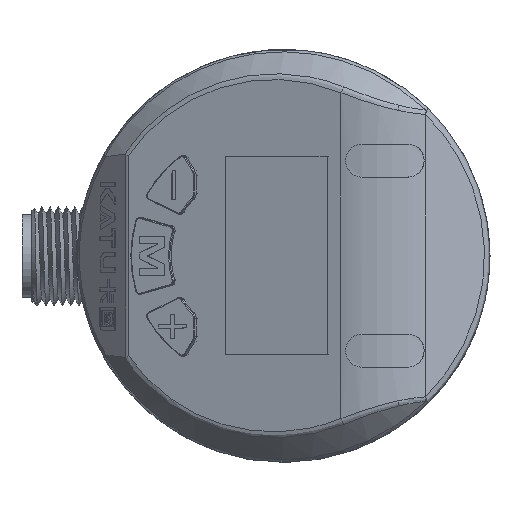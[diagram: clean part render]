
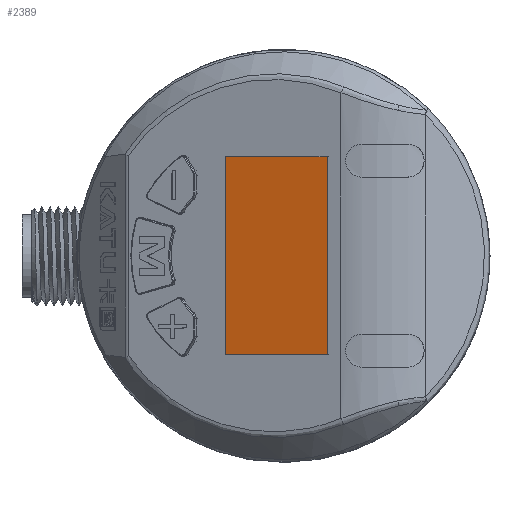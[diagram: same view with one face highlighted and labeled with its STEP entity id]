
A CAD part, top view. The second image highlights one B-rep face of the part: STEP entity #2389.
In plain terms, the highlighted planar face has unit normal (-0.342, 0, 0.94).
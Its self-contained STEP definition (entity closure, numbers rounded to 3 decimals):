
#1477=PLANE('',#12348);
#2389=ADVANCED_FACE('',(#3051),#1477,.T.);
#3051=FACE_OUTER_BOUND('',#3843,.T.);
#3843=EDGE_LOOP('',(#7277,#7278,#7279,#7280));
#7277=ORIENTED_EDGE('',*,*,#9763,.T.);
#7278=ORIENTED_EDGE('',*,*,#9764,.T.);
#7279=ORIENTED_EDGE('',*,*,#9765,.T.);
#7280=ORIENTED_EDGE('',*,*,#9766,.T.);
#8325=VERTEX_POINT('',#25960);
#8326=VERTEX_POINT('',#25961);
#8327=VERTEX_POINT('',#25963);
#8328=VERTEX_POINT('',#25965);
#9763=EDGE_CURVE('',#8325,#8326,#10544,.T.);
#9764=EDGE_CURVE('',#8326,#8327,#10545,.T.);
#9765=EDGE_CURVE('',#8327,#8328,#10546,.T.);
#9766=EDGE_CURVE('',#8328,#8325,#10547,.T.);
#10544=LINE('',#25959,#11311);
#10545=LINE('',#25962,#11312);
#10546=LINE('',#25964,#11313);
#10547=LINE('',#25966,#11314);
#11311=VECTOR('',#15140,1.);
#11312=VECTOR('',#15141,1.);
#11313=VECTOR('',#15142,1.);
#11314=VECTOR('',#15143,1.);
#12348=AXIS2_PLACEMENT_3D('',#25967,#15144,#15145);
#15140=DIRECTION('',(-0.94,0.,-0.342));
#15141=DIRECTION('',(0.,-1.,0.));
#15142=DIRECTION('',(0.94,0.,0.342));
#15143=DIRECTION('',(0.,1.,0.));
#15144=DIRECTION('',(-0.342,0.,0.94));
#15145=DIRECTION('',(-0.94,0.,-0.342));
#25959=CARTESIAN_POINT('',(45.306,12.006,110.2));
#25960=CARTESIAN_POINT('',(36.258,12.002,106.907));
#25961=CARTESIAN_POINT('',(23.939,11.997,102.423));
#25962=CARTESIAN_POINT('',(23.949,-15.759,102.427));
#25963=CARTESIAN_POINT('',(23.948,-11.997,102.426));
#25964=CARTESIAN_POINT('',(45.315,-11.988,110.203));
#25965=CARTESIAN_POINT('',(36.267,-11.992,106.91));
#25966=CARTESIAN_POINT('',(36.268,-15.753,106.91));
#25967=CARTESIAN_POINT('',(45.316,-15.75,110.204));
